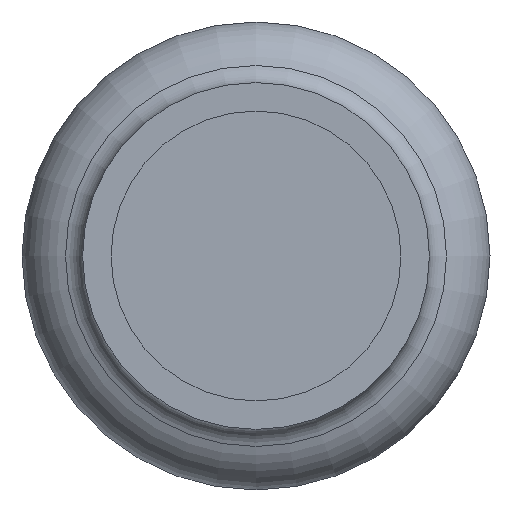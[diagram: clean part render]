
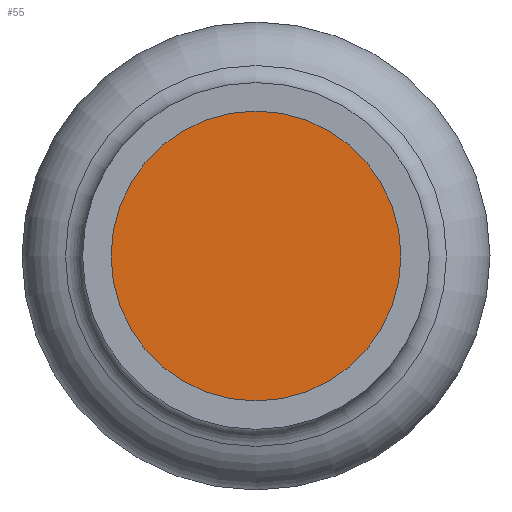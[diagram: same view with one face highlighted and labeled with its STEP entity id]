
A CAD part, front view. The second image highlights one B-rep face of the part: STEP entity #55.
In plain terms, the highlighted planar face has unit normal (0, -1, 0).
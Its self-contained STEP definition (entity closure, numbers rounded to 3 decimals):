
#55=ADVANCED_FACE('',(#90),#92,.T.);
#90=FACE_BOUND('',#91,.T.);
#91=EDGE_LOOP('',(#243));
#92=PLANE('',#93);
#93=AXIS2_PLACEMENT_3D('',#94,#95,#96);
#94=CARTESIAN_POINT('',(0.,-24.606,0.));
#95=DIRECTION('',(0.,-1.,0.));
#96=DIRECTION('',(0.,0.,1.));
#243=ORIENTED_EDGE('',*,*,#277,.T.);
#277=EDGE_CURVE('',#297,#297,#298,.F.);
#297=VERTEX_POINT('',#339);
#298=CIRCLE('',#340,6.1);
#339=CARTESIAN_POINT('',(0.,-24.606,6.1));
#340=AXIS2_PLACEMENT_3D('',#341,#342,#343);
#341=CARTESIAN_POINT('',(0.,-24.606,0.));
#342=DIRECTION('',(0.,1.,0.));
#343=DIRECTION('',(0.,0.,1.));
